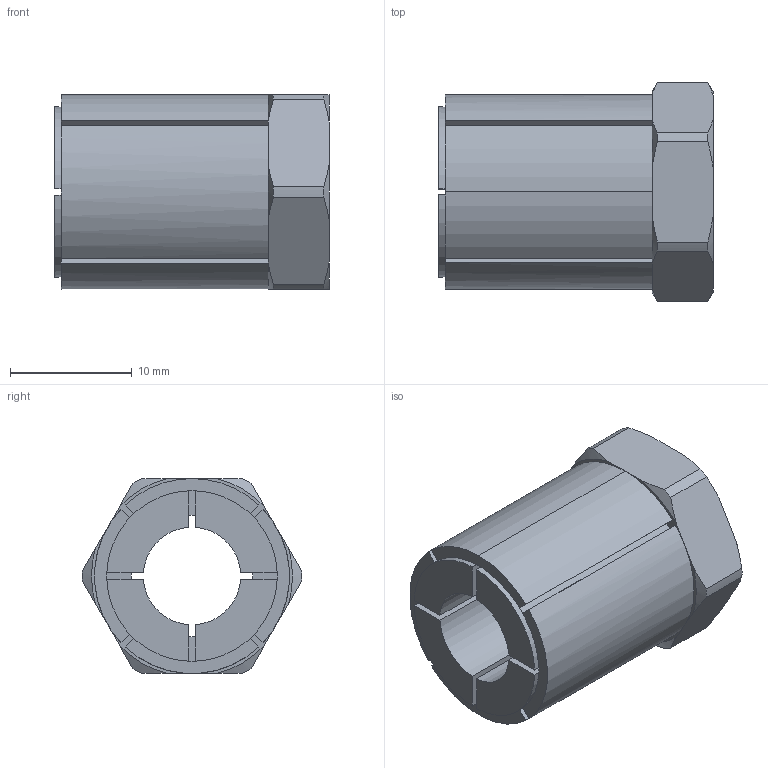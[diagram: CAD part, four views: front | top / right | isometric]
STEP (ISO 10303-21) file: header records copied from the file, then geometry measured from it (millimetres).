
FILE_DESCRIPTION (( 'STEP AP203' ), '1' );
FILE_NAME ('KBS 58 - 8 x 16.STEP', '2015-07-05T20:03:04', ( '' ), ( '' ), 'SwSTEP 2.0', 'SolidWorks 2010', '' );
FILE_SCHEMA (( 'CONFIG_CONTROL_DESIGN' ));
Length unit declared in the file: millimetre
Products named in the file (1): KBS 58 - 8 x 16
Bounding box: 22.5 x 18 x 16 mm (x, y, z)
Volume: 3285.4 mm3; surface area: 2708.7 mm2
Topology: 1 solids, 1 shells, 84 faces, 231 edges, 149 vertices
Faces by surface type: plane 42, cylinder 26, cone 16
Entity records: 2841 total; most frequent: CARTESIAN_POINT 609, ORIENTED_EDGE 462, DIRECTION 454, EDGE_CURVE 231, AXIS2_PLACEMENT_3D 170, VERTEX_POINT 149, LINE 114, VECTOR 114
